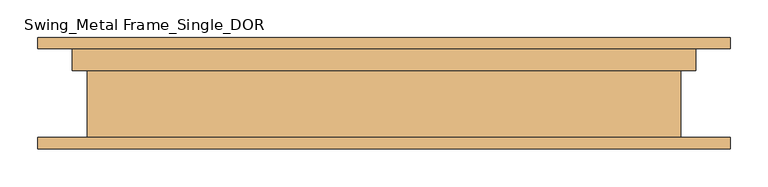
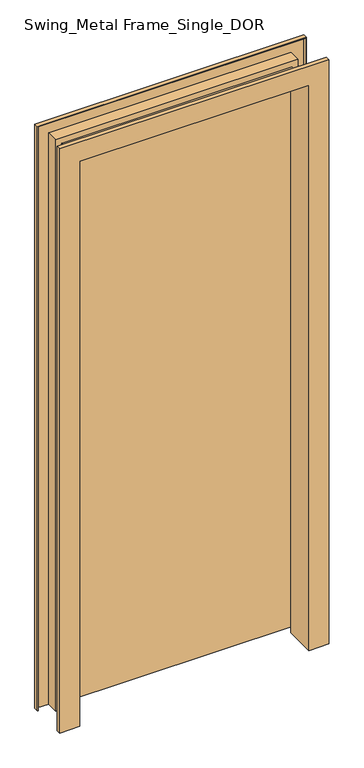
"""IFC4 building model written with IfcOpenShell, lengths in millimetres: door geometry, Swing_Metal Frame_Single_DOR : 2040h x 820 (2110x920 STUD)."""

from ifc_helpers import new_model, si_unit, frame, origin, place, context, project, spatial, polyline, outline, extrude, faceted_brep, source, transform, mapped, element, save


def swing_metal_frame_single_dor_60e0689a(model_context):
    return source(origin(), model_context, "Body", "SolidModel", [
        extrude(outline(polyline([(410.0, 74.0), (410.0, 34.0), (-410.0, 34.0), (-410.0, 74.0), (410.0, 74.0)])), frame((0.0, 0.0, 20.0), z_axis=(0.0, 0.0, 1.0), x_axis=(1.0, 0.0, 0.0)), (0.0, 0.0, 1.0), 2040.0),
        faceted_brep([(-460.0, -74.0, 0.0), (-460.0, -59.0, 0.0), (-458.0, -59.0, 0.0), (-458.0, -72.0, 0.0), (-394.0, -72.0, 0.0), (-394.0, 30.0, 0.0), (-414.0, 30.0, 0.0), (-414.0, 72.0, 0.0), (-458.0, 72.0, 0.0), (-458.0, 59.0, 0.0), (-460.0, 59.0, 0.0), (-460.0, 74.0, 0.0), (-412.0, 74.0, 0.0), (-412.0, 32.0, 0.0), (-392.0, 32.0, 0.0), (-392.0, -74.0, 0.0), (-460.0, -74.0, 2110.0), (-460.0, -59.0, 2110.0), (460.0, -59.0, 2110.0), (460.0, -59.0, 0.0), (458.0, -59.0, 0.0), (458.0, -59.0, 2108.0), (-458.0, -59.0, 2108.0), (-458.0, -72.0, 2108.0), (458.0, -72.0, 2108.0), (458.0, -72.0, 0.0), (394.0, -72.0, 0.0), (394.0, -72.0, 2044.0), (-394.0, -72.0, 2044.0), (-394.0, 30.0, 2044.0), (394.0, 30.0, 2044.0), (394.0, 30.0, 0.0), (414.0, 30.0, 0.0), (414.0, 30.0, 2064.0), (-414.0, 30.0, 2064.0), (-414.0, 72.0, 2064.0), (414.0, 72.0, 2064.0), (414.0, 72.0, 0.0), (458.0, 72.0, 0.0), (458.0, 72.0, 2108.0), (-458.0, 72.0, 2108.0), (-458.0, 59.0, 2108.0), (458.0, 59.0, 2108.0), (458.0, 59.0, 0.0), (460.0, 59.0, 0.0), (460.0, 59.0, 2110.0), (-460.0, 59.0, 2110.0), (-460.0, 74.0, 2110.0), (460.0, 74.0, 2110.0), (460.0, 74.0, 0.0), (412.0, 74.0, 0.0), (412.0, 74.0, 2062.0), (-412.0, 74.0, 2062.0), (-412.0, 32.0, 2062.0), (412.0, 32.0, 2062.0), (412.0, 32.0, 0.0), (392.0, 32.0, 0.0), (392.0, 32.0, 2042.0), (-392.0, 32.0, 2042.0), (-392.0, -74.0, 2042.0), (392.0, -74.0, 2042.0), (392.0, -74.0, 0.0), (460.0, -74.0, 0.0), (460.0, -74.0, 2110.0)], [[[0, 1, 2, 3, 4, 5, 6, 7, 8, 9, 10, 11, 12, 13, 14, 15]], [[1, 0, 16, 17]], [[2, 1, 17, 18, 19, 20, 21, 22]], [[3, 2, 22, 23]], [[4, 3, 23, 24, 25, 26, 27, 28]], [[5, 4, 28, 29]], [[6, 5, 29, 30, 31, 32, 33, 34]], [[7, 6, 34, 35]], [[8, 7, 35, 36, 37, 38, 39, 40]], [[9, 8, 40, 41]], [[10, 9, 41, 42, 43, 44, 45, 46]], [[11, 10, 46, 47]], [[12, 11, 47, 48, 49, 50, 51, 52]], [[13, 12, 52, 53]], [[14, 13, 53, 54, 55, 56, 57, 58]], [[15, 14, 58, 59]], [[0, 15, 59, 60, 61, 62, 63, 16]], [[18, 63, 62, 19]], [[62, 61, 56, 55, 50, 49, 44, 43, 38, 37, 32, 31, 26, 25, 20, 19]], [[24, 21, 20, 25]], [[30, 27, 26, 31]], [[36, 33, 32, 37]], [[42, 39, 38, 43]], [[48, 45, 44, 49]], [[54, 51, 50, 55]], [[60, 57, 56, 61]], [[17, 16, 63, 18]], [[23, 22, 21, 24]], [[29, 28, 27, 30]], [[35, 34, 33, 36]], [[41, 40, 39, 42]], [[47, 46, 45, 48]], [[53, 52, 51, 54]], [[59, 58, 57, 60]]]),
    ])


if __name__ == "__main__":
    model = new_model("IFC4")
    model_context = context("Model", 3, world=origin())
    ifc_project = project(units=[si_unit("LENGTHUNIT", "METRE", prefix="MILLI")], contexts=[model_context])
    site = spatial("IfcSite", under=ifc_project)
    building = spatial("IfcBuilding", under=site)
    placement = place(None, origin())
    swing_metal_frame_single_dor_shape = swing_metal_frame_single_dor_60e0689a(model_context)
    element("IfcDoor", 1, ObjectType="Swing_Metal Frame_Single_DOR : 2040h x 820 (2110x920 STUD)", at=placement, inside=building, context=model_context, shape_type="MappedRepresentation", body=[
        mapped(swing_metal_frame_single_dor_shape, transform((0.0, 0.0, 0.0), x_axis=(1.0, 0.0, 0.0), y_axis=(0.0, 1.0, 0.0), z_axis=(0.0, 0.0, 1.0))),
    ])
    save(model, "model.ifc")
